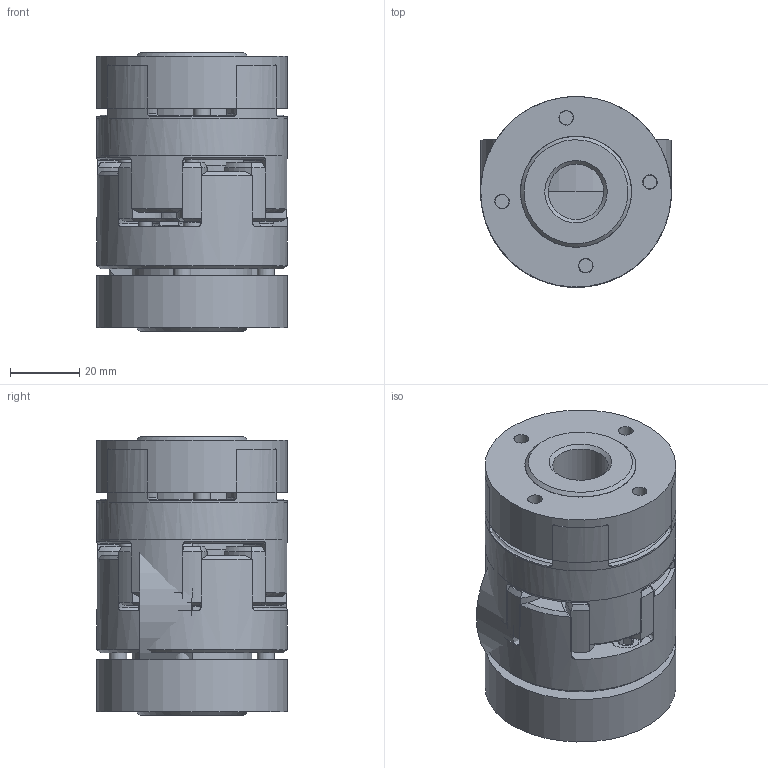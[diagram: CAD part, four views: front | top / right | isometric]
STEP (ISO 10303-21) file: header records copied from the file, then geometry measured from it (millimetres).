
FILE_DESCRIPTION( ( 'Unknown' ), '1' );
FILE_NAME( 'C:/Dokumente und Einstellungen/Sven/Desktop/homepage/cad - homepage/KBE3/KBE3 - 24.stp', 'Unknown', ( 'Unknown' ), ( 'Unknown' ), 'XStep 1.0', 'Unknown', ' ' );
FILE_SCHEMA( ( 'automotive_design' ) );
Length unit declared in the file: millimetre
Products named in the file (5): Assem1; Zahnkranz_24_Standard; KBE 3 - 24_Nabe; KBE3-24_Klemmring; ISO EN DIN 4762_M5x20
Bounding box: 55 x 55 x 80.4 mm (x, y, z)
Volume: 226973.6 mm3; surface area: 86397.5 mm2
Topology: 17 solids, 17 shells, 689 faces, 1541 edges, 928 vertices
Faces by surface type: cone 258, cylinder 195, plane 182, torus 54
Full cylindrical faces by diameter (mm): 4 x16, 4.2 x18, 5 x9, 5.5 x12, 8.5 x9, 9.5 x12, 16 x3, 27 x4, 30 x3, 34.625 x3, 55 x6
Entity records: 7722 total; most frequent: CARTESIAN_POINT 1592, DIRECTION 1118, ORIENTED_EDGE 958, AXIS2_PLACEMENT_3D 529, EDGE_CURVE 479, VERTEX_POINT 311, EDGE_LOOP 308, CIRCLE 285
